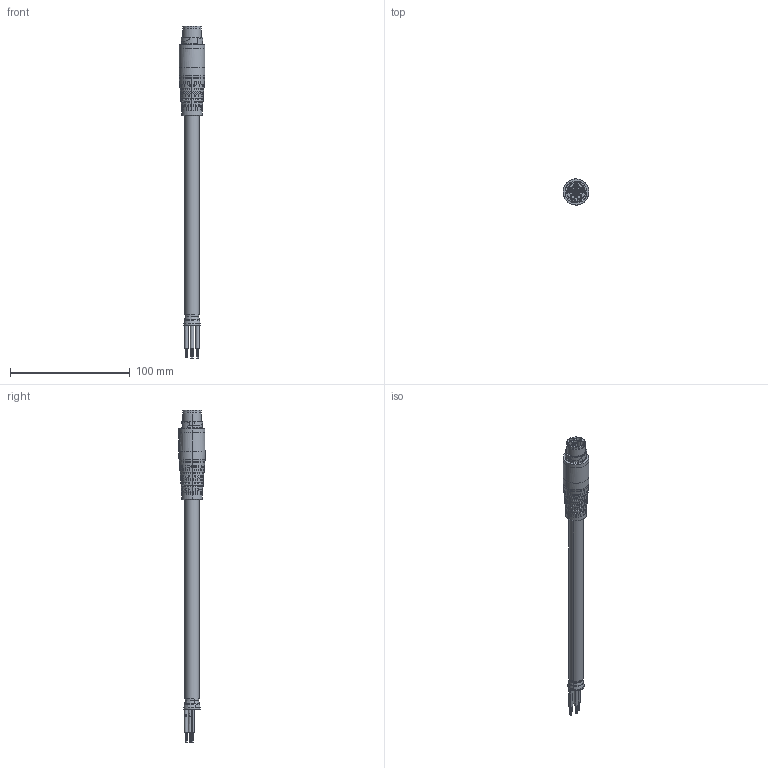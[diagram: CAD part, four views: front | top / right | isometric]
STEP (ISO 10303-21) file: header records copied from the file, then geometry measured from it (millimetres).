
FILE_DESCRIPTION (( 'STEP AP214' ), '1' );
FILE_NAME ('W-TEC 15M STI-GLATT 4x.STEP', '2021-07-29T14:27:12', ( '' ), ( '' ), 'SwSTEP 2.0', 'SolidWorks 2021', '' );
FILE_SCHEMA (( 'AUTOMOTIVE_DESIGN' ));
Length unit declared in the file: millimetre
Products named in the file (1): W-TEC 15M STI-GLATT 4x
Bounding box: 21.72 x 21.83 x 277.58 mm (x, y, z)
Surface area: 18108.8 mm2 (no closed solid volume)
Topology: 0 solids, 4 shells, 1328 faces, 3209 edges, 2056 vertices
Faces by surface type: cylinder 582, plane 397, bspline 290, cone 45, torus 14
Entity records: 64408 total; most frequent: CARTESIAN_POINT 21466, ORIENTED_EDGE 6239, DIRECTION 6020, EDGE_CURVE 3140, AXIS2_PLACEMENT_3D 2528, VERTEX_POINT 2056, EDGE_LOOP 1582, CIRCLE 1489
